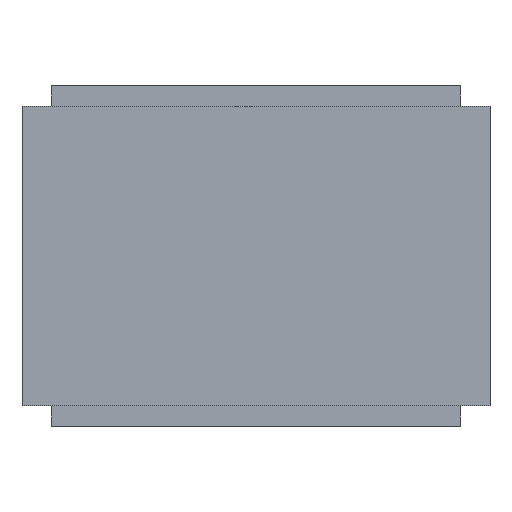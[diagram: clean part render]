
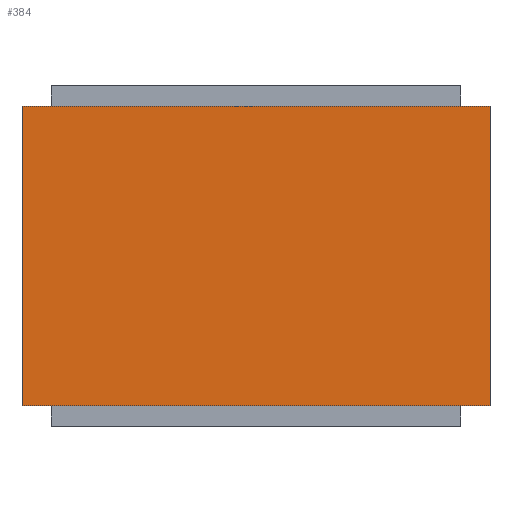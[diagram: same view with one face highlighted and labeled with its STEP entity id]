
A CAD part, front view. The second image highlights one B-rep face of the part: STEP entity #384.
In plain terms, the highlighted planar face has unit normal (0, -1, 0).
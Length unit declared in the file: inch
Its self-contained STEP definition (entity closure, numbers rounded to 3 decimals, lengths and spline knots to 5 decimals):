
#29 = EDGE_CURVE ( 'NONE', #143, #500, #545, .T. ) ;
#30 = EDGE_LOOP ( 'NONE', ( #442, #558, #42, #506 ) ) ;
#42 = ORIENTED_EDGE ( 'NONE', *, *, #357, .T. ) ;
#88 = DIRECTION ( 'NONE',  ( 1., 0., 0. ) ) ;
#117 = VECTOR ( 'NONE', #200, 39.37008 ) ;
#143 = VERTEX_POINT ( 'NONE', #405 ) ;
#150 = EDGE_CURVE ( 'NONE', #395, #143, #443, .T. ) ;
#158 = AXIS2_PLACEMENT_3D ( 'NONE', #531, #347, #387 ) ;
#172 = CARTESIAN_POINT ( 'NONE',  ( -1.73, -0.215, -1.10787 ) ) ;
#200 = DIRECTION ( 'NONE',  ( 0., 0., -1. ) ) ;
#235 = VECTOR ( 'NONE', #88, 39.37008 ) ;
#237 = VECTOR ( 'NONE', #424, 39.37008 ) ;
#243 = CARTESIAN_POINT ( 'NONE',  ( -1.73, -0.215, -1.10787 ) ) ;
#293 = VECTOR ( 'NONE', #434, 39.37008 ) ;
#347 = DIRECTION ( 'NONE',  ( 0., -1., 0. ) ) ;
#351 = FACE_OUTER_BOUND ( 'NONE', #30, .T. ) ;
#357 = EDGE_CURVE ( 'NONE', #575, #395, #417, .T. ) ;
#378 = CARTESIAN_POINT ( 'NONE',  ( 1.73, -0.215, 1.10787 ) ) ;
#384 = ADVANCED_FACE ( 'NONE', ( #351 ), #435, .T. ) ;
#387 = DIRECTION ( 'NONE',  ( 0., 0., -1. ) ) ;
#392 = CARTESIAN_POINT ( 'NONE',  ( -1.73, -0.215, 1.10787 ) ) ;
#394 = CARTESIAN_POINT ( 'NONE',  ( 1.73, -0.215, 1.10787 ) ) ;
#395 = VERTEX_POINT ( 'NONE', #172 ) ;
#405 = CARTESIAN_POINT ( 'NONE',  ( 1.73, -0.215, -1.10787 ) ) ;
#417 = LINE ( 'NONE', #485, #117 ) ;
#424 = DIRECTION ( 'NONE',  ( 0., 0., 1. ) ) ;
#434 = DIRECTION ( 'NONE',  ( -1., 0., 0. ) ) ;
#435 = PLANE ( 'NONE',  #158 ) ;
#442 = ORIENTED_EDGE ( 'NONE', *, *, #29, .T. ) ;
#443 = LINE ( 'NONE', #243, #235 ) ;
#449 = EDGE_CURVE ( 'NONE', #500, #575, #460, .T. ) ;
#460 = LINE ( 'NONE', #523, #293 ) ;
#485 = CARTESIAN_POINT ( 'NONE',  ( -1.73, -0.215, 1.10787 ) ) ;
#500 = VERTEX_POINT ( 'NONE', #394 ) ;
#506 = ORIENTED_EDGE ( 'NONE', *, *, #150, .T. ) ;
#523 = CARTESIAN_POINT ( 'NONE',  ( -1.73, -0.215, 1.10787 ) ) ;
#531 = CARTESIAN_POINT ( 'NONE',  ( 0., -0.215, 0. ) ) ;
#545 = LINE ( 'NONE', #378, #237 ) ;
#558 = ORIENTED_EDGE ( 'NONE', *, *, #449, .T. ) ;
#575 = VERTEX_POINT ( 'NONE', #392 ) ;
